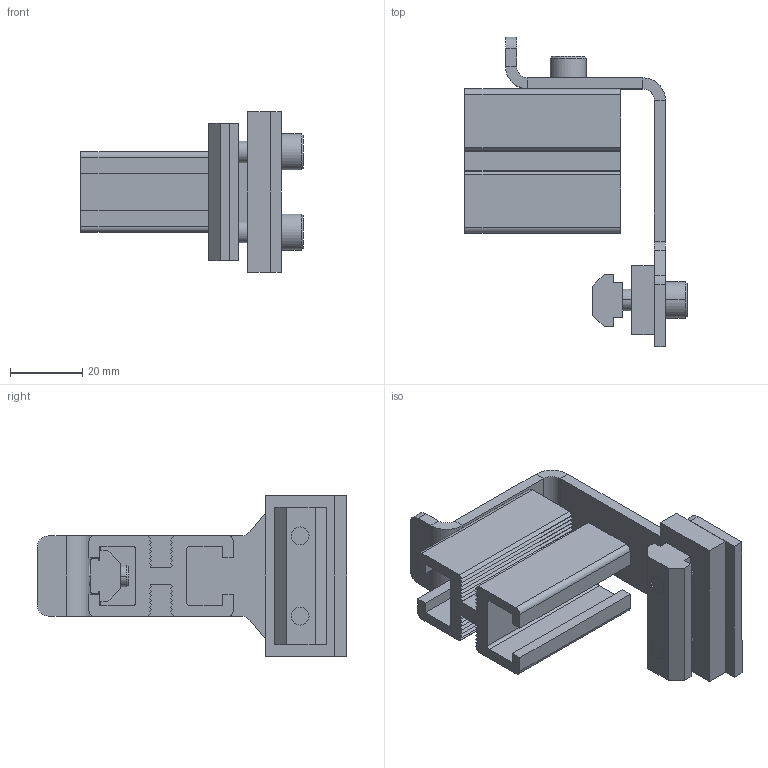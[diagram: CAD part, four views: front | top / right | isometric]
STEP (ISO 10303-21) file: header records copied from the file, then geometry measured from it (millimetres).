
FILE_DESCRIPTION (( 'STEP AP203' ), '1' );
FILE_NAME ('207133-02.STEP', '2023-03-01T20:53:24', ( '' ), ( '' ), 'SwSTEP 2.0', 'SolidWorks 2020', '' );
FILE_SCHEMA (( 'CONFIG_CONTROL_DESIGN' ));
Length unit declared in the file: inch
Products named in the file (8): 639971M_CAE; 207133-02; 202444; 207135-WW_207135-02; 201937; 200626M; 9206XXM_920620M; 9206XXM_920614M
Assembly tree (8 placements, depth 2):
  207133-02
    201937
    207135-WW_207135-02
    202444
    200626M
    639971M_CAE
    9206XXM_920614M
    9206XXM_920620M  x2
Bounding box: 61.58 x 85.8 x 44.45 mm (x, y, z)
Volume: 39643.8 mm3; surface area: 26517.6 mm2
Topology: 8 solids, 8 shells, 259 faces, 647 edges, 410 vertices
Faces by surface type: plane 170, cylinder 56, cone 33
Entity records: 8034 total; most frequent: CARTESIAN_POINT 1355, DIRECTION 1202, ORIENTED_EDGE 1200, EDGE_CURVE 600, LINE 460, VECTOR 460, VERTEX_POINT 384, AXIS2_PLACEMENT_3D 371
